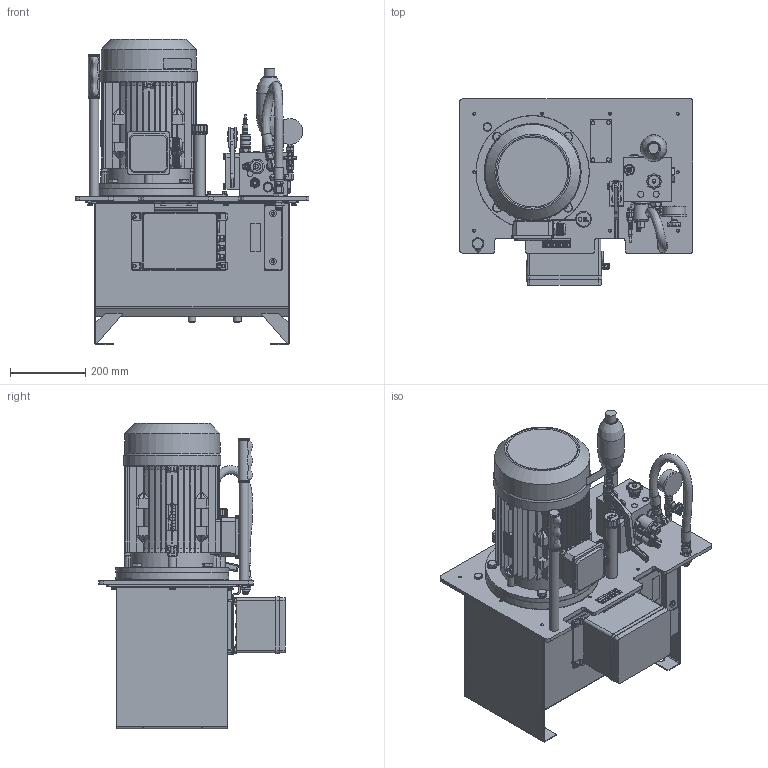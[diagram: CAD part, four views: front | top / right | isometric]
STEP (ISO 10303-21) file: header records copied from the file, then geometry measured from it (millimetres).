
FILE_DESCRIPTION(/* description */ (''),/* implementation_level */ '2;1');
FILE_NAME(/* name */ 'C:\Users\nemgal01\Desktop\STEP\73183.stp',/* time_stamp */ '2017-03-09T12:42:28+01:00',/* author */ ('nemgal01'),/* organization */ (''),/* preprocessor_version */ 'ST-DEVELOPER v16.1',/* originating_system */ 'Autodesk Inventor 2016',/* authorisation */ '');
FILE_SCHEMA (('AUTOMOTIVE_DESIGN { 1 0 10303 214 3 1 1 }'));
Products named in the file (1): Assembly7_Shrinkwrap_1
Bounding box: 620 x 494.5 x 810.34 mm (x, y, z)
Volume: 36316836.9 mm3; surface area: 3351093.2 mm2
Topology: 4 solids, 10 shells, 5263 faces, 13525 edges, 8642 vertices
Faces by surface type: plane 2949, cylinder 1080, cone 686, bspline 312, torus 191, sphere 45
Full cylindrical faces by diameter (mm): 1.562 x2, 5 x8, 5.459 x4, 5.65 x1, 6 x1, 6.29 x1, 7 x6, 7.323 x13, 7.55 x2, 8 x12, 8.376 x1, 8.5 x4, 8.7 x4, 8.89 x2, 9 x8, 9.2 x2, 9.42 x1, 9.6 x4, 9.842 x1, 9.954 x1, 10 x31, 10.287 x2, 10.773 x1, 11.11 x1, 11.12 x1, 11.4 x13, 12 x2, 12.125 x1, 12.7 x1, 12.917 x4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
Entity records: 191578 total; most frequent: CARTESIAN_POINT 64408, ORIENTED_EDGE 25920, DIRECTION 24251, EDGE_CURVE 12956, AXIS2_PLACEMENT_3D 8784, VERTEX_POINT 8504, LINE 6683, VECTOR 6683
